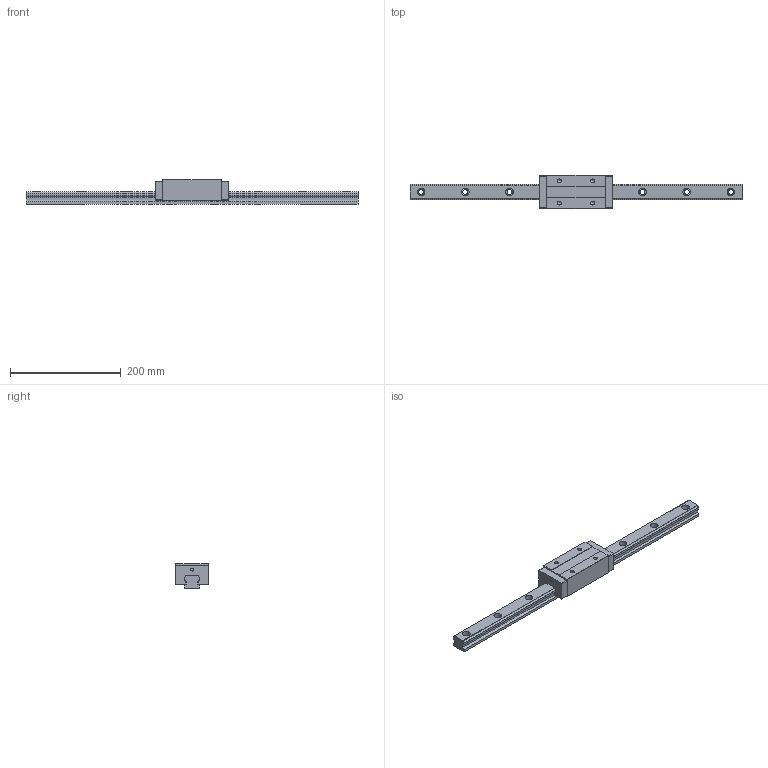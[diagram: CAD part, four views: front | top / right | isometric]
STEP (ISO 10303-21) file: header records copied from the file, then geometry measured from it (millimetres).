
FILE_DESCRIPTION(/* description */ (''),/* implementation_level */ '2;1');
FILE_NAME(/* name */ 'TRH30VE-XN.stp',/* time_stamp */ '2017-10-25T15:06:34+08:00',/* author */ (''),/* organization */ (''),/* preprocessor_version */ 'ST-DEVELOPER v11',/* originating_system */ 'SIEMENS UGS NX 6.0',/* authorisation */ '');
FILE_SCHEMA (('AUTOMOTIVE_DESIGN { 1 0 10303 214 1 1 1 1 }'));
Length unit declared in the file: millimetre
Products named in the file (1): TRH30VE-XN
Bounding box: 600 x 60 x 45 mm (x, y, z)
Volume: 563946.2 mm3; surface area: 105285.5 mm2
Topology: 2 solids, 2 shells, 124 faces, 318 edges, 208 vertices
Faces by surface type: plane 74, cylinder 42, cone 8
Full cylindrical faces by diameter (mm): 5 x2, 6.75 x4, 9 x8, 14 x8
Entity records: 4070 total; most frequent: DIRECTION 610, CARTESIAN_POINT 593, ORIENTED_EDGE 544, EDGE_CURVE 272, AXIS2_PLACEMENT_3D 213, VERTEX_POINT 196, LINE 184, VECTOR 184
